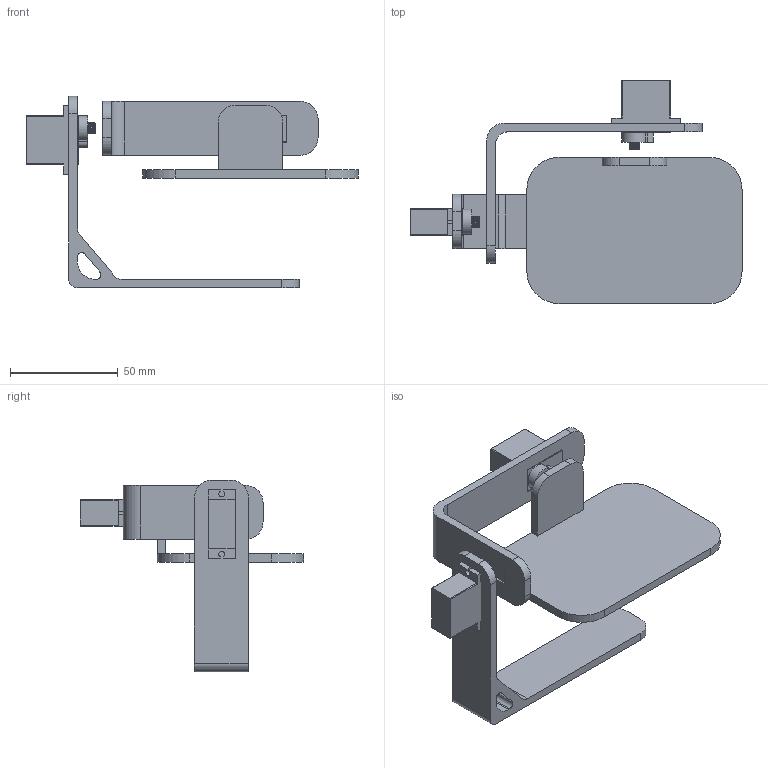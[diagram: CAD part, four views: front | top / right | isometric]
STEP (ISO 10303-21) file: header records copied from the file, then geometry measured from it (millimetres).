
FILE_DESCRIPTION(/* description */ (''),/* implementation_level */ '2;1');
FILE_NAME(/* name */ 'gimbal 3.step',/* time_stamp */ '2026-01-09T16:58:14+08:00',/* author */ (''),/* organization */ (''),/* preprocessor_version */ 'ST-DEVELOPER v20.1',/* originating_system */ 'Autodesk Translation Framework v14.21.0.0',/* authorisation */ '');
FILE_SCHEMA (('AUTOMOTIVE_DESIGN { 1 0 10303 214 3 1 1 }'));
Length unit declared in the file: millimetre
Products named in the file (5): 2026-01-07-06-19-03-498; 2026-01-06-19-01-53-201; 2026-01-07-07-51-15-156; 2026-01-07-20-18-46-815; 2026-01-08-23-15-10-934
Assembly tree (5 placements, depth 2):
  2026-01-07-06-19-03-498
    2026-01-06-19-01-53-201  x2
    2026-01-07-07-51-15-156
    2026-01-07-20-18-46-815
    2026-01-08-23-15-10-934
Bounding box: 154.28 x 103.7 x 89 mm (x, y, z)
Volume: 80706.2 mm3; surface area: 43467.5 mm2
Topology: 47 solids, 47 shells, 600 faces, 1496 edges, 990 vertices
Faces by surface type: cylinder 288, plane 180, bspline 84, cone 42, torus 6
Full cylindrical faces by diameter (mm): 2.013 x2, 4.367 x2, 5.1 x2
Entity records: 11047 total; most frequent: CARTESIAN_POINT 2368, DIRECTION 1854, ORIENTED_EDGE 1676, EDGE_CURVE 838, AXIS2_PLACEMENT_3D 737, VERTEX_POINT 557, LINE 380, VECTOR 380
